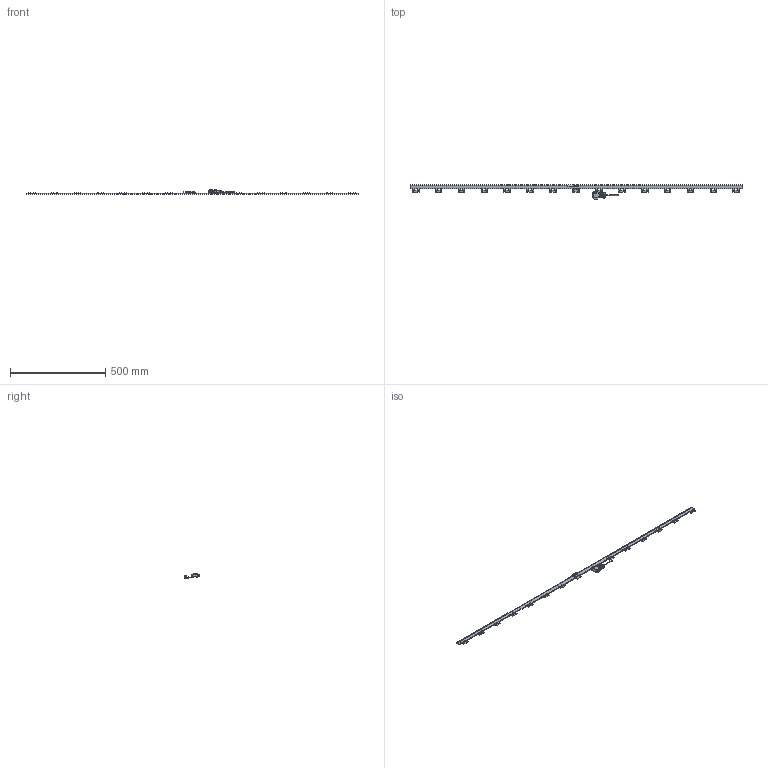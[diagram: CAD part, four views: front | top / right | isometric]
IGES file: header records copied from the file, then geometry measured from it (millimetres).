
Start section: Elysium IGES Interface
Global section: file name: 79H\\Utsu119s\kiyo_cad\data\3D\ST46EZA\HP掲載用_201708\ST46EZA-A\ST46EZA-1700A.igs; native system: Creo Elements/Direct Modeling 18.1B  29-Sep-2012; preprocessor: Creo Element/Direct IGES_3D V2.2; author: Unknown; organization: Unknown; date: 20170912.151550; units: millimetre
Bounding box: 1740 x 78.25 x 21.95 mm (x, y, z)
Volume: 189912 mm3; surface area: 124624.1 mm2
Topology: 3 solids, 8 shells, 2927 faces, 7909 edges, 5158 vertices
Faces by surface type: bspline 2927
